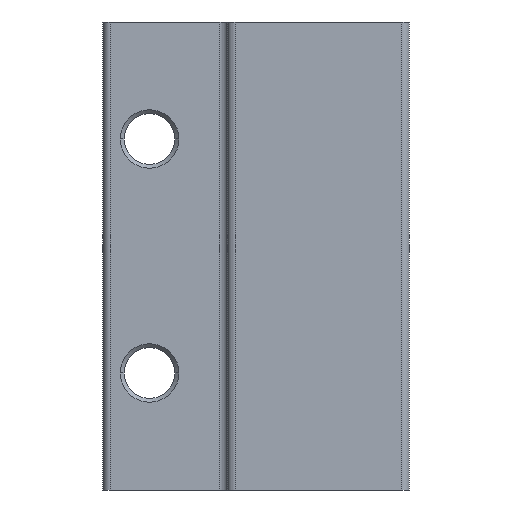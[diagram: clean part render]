
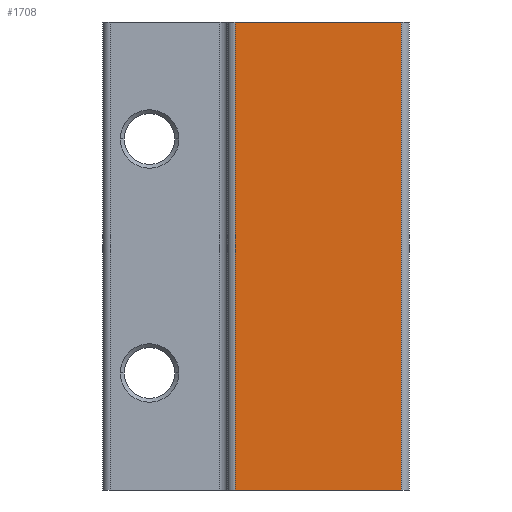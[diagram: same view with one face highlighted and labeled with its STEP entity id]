
A CAD part, left-side view. The second image highlights one B-rep face of the part: STEP entity #1708.
In plain terms, the highlighted planar face has unit normal (-1, 0, 0).
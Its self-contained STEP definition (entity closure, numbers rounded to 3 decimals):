
#8 = LINE ( 'NONE', #693, #1237 ) ;
#93 = EDGE_CURVE ( 'NONE', #202, #1593, #1557, .T. ) ;
#196 = ORIENTED_EDGE ( 'NONE', *, *, #1411, .F. ) ;
#198 = CARTESIAN_POINT ( 'NONE',  ( -15.3, -8., 60. ) ) ;
#202 = VERTEX_POINT ( 'NONE', #1307 ) ;
#372 = DIRECTION ( 'NONE',  ( 0., -1., 0. ) ) ;
#386 = LINE ( 'NONE', #394, #990 ) ;
#394 = CARTESIAN_POINT ( 'NONE',  ( -15.3, 14.3, 60. ) ) ;
#419 = ORIENTED_EDGE ( 'NONE', *, *, #1221, .T. ) ;
#420 = CARTESIAN_POINT ( 'NONE',  ( -15.3, -7., 0. ) ) ;
#467 = CARTESIAN_POINT ( 'NONE',  ( -15.3, 14.3, 60. ) ) ;
#473 = VERTEX_POINT ( 'NONE', #712 ) ;
#693 = CARTESIAN_POINT ( 'NONE',  ( -15.3, -7., 60. ) ) ;
#712 = CARTESIAN_POINT ( 'NONE',  ( -15.3, -7., 60. ) ) ;
#721 = PLANE ( 'NONE',  #860 ) ;
#739 = VECTOR ( 'NONE', #883, 1000. ) ;
#742 = CARTESIAN_POINT ( 'NONE',  ( -15.3, -8., 0. ) ) ;
#781 = EDGE_CURVE ( 'NONE', #1682, #202, #386, .T. ) ;
#814 = DIRECTION ( 'NONE',  ( 0., 0., 1. ) ) ;
#860 = AXIS2_PLACEMENT_3D ( 'NONE', #198, #1652, #1546 ) ;
#883 = DIRECTION ( 'NONE',  ( 0., -1., 0. ) ) ;
#925 = LINE ( 'NONE', #1298, #1391 ) ;
#931 = DIRECTION ( 'NONE',  ( 0., 0., -1. ) ) ;
#990 = VECTOR ( 'NONE', #931, 1000. ) ;
#1221 = EDGE_CURVE ( 'NONE', #1593, #473, #8, .T. ) ;
#1237 = VECTOR ( 'NONE', #814, 1000. ) ;
#1298 = CARTESIAN_POINT ( 'NONE',  ( -15.3, 10.3, 60. ) ) ;
#1307 = CARTESIAN_POINT ( 'NONE',  ( -15.3, 14.3, 0. ) ) ;
#1391 = VECTOR ( 'NONE', #372, 1000. ) ;
#1394 = FACE_OUTER_BOUND ( 'NONE', #1591, .T. ) ;
#1411 = EDGE_CURVE ( 'NONE', #1682, #473, #925, .T. ) ;
#1448 = ORIENTED_EDGE ( 'NONE', *, *, #781, .T. ) ;
#1546 = DIRECTION ( 'NONE',  ( 0., 1., 0. ) ) ;
#1557 = LINE ( 'NONE', #742, #739 ) ;
#1568 = ORIENTED_EDGE ( 'NONE', *, *, #93, .T. ) ;
#1591 = EDGE_LOOP ( 'NONE', ( #196, #1448, #1568, #419 ) ) ;
#1593 = VERTEX_POINT ( 'NONE', #420 ) ;
#1652 = DIRECTION ( 'NONE',  ( 1., 0., 0. ) ) ;
#1682 = VERTEX_POINT ( 'NONE', #467 ) ;
#1708 = ADVANCED_FACE ( 'NONE', ( #1394 ), #721, .F. ) ;
